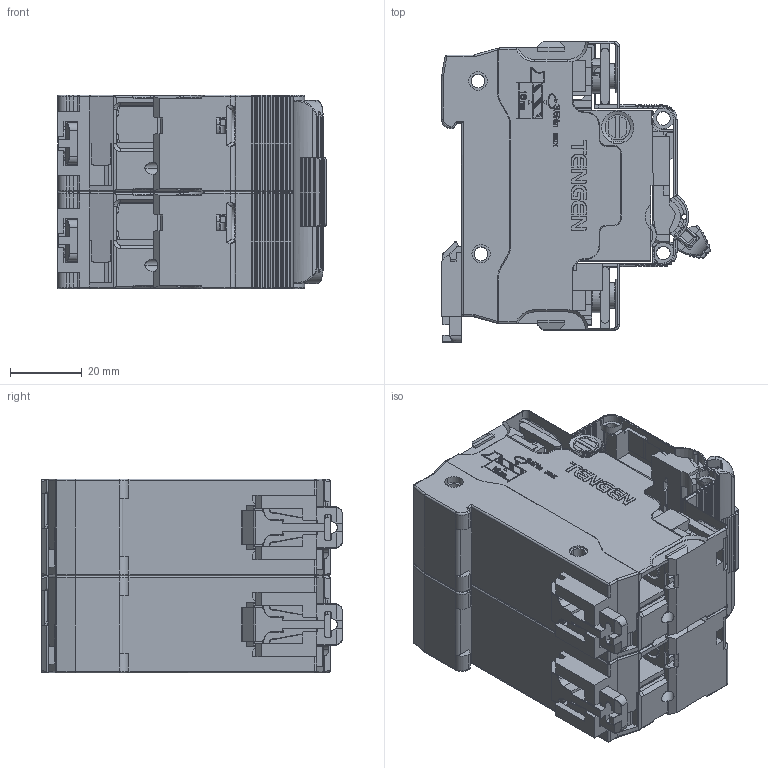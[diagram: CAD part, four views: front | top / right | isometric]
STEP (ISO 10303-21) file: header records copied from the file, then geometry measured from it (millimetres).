
FILE_DESCRIPTION (( 'STEP AP214' ), '1' );
FILE_NAME ('TGB1N-125 2P.STEP', '2025-12-15T13:38:44', ( '' ), ( '' ), 'SwSTEP 2.0', 'SolidWorks 2024', '' );
FILE_SCHEMA (( 'AUTOMOTIVE_DESIGN' ));
Length unit declared in the file: millimetre
Products named in the file (6): TGB1N-1252P_SW0001_4.stp; TGB1N-125 2P.stp; TGB1N-1252P_SW0001_3.stp; TGB1N-1252P_SW0001_2.stp; TGB1N-125 2P; TGB1N-1252P_SW0001_1.stp
Assembly tree (5 placements, depth 3):
  TGB1N-125 2P
    TGB1N-125 2P.stp
      TGB1N-1252P_SW0001_1.stp
      TGB1N-1252P_SW0001_2.stp
      TGB1N-1252P_SW0001_3.stp
      TGB1N-1252P_SW0001_4.stp
Bounding box: 74.77 x 83.73 x 54 mm (x, y, z)
Volume: 1313.5 mm3; surface area: 85691 mm2
Topology: 2 solids, 4 shells, 6314 faces, 17693 edges, 11395 vertices
Faces by surface type: plane 4460, cylinder 1116, bspline 342, torus 206, cone 168, sphere 22
Entity records: 217158 total; most frequent: CARTESIAN_POINT 58651, ORIENTED_EDGE 35202, DIRECTION 29678, EDGE_CURVE 17601, VECTOR 12764, LINE 12764, VERTEX_POINT 11371, AXIS2_PLACEMENT_3D 8457
